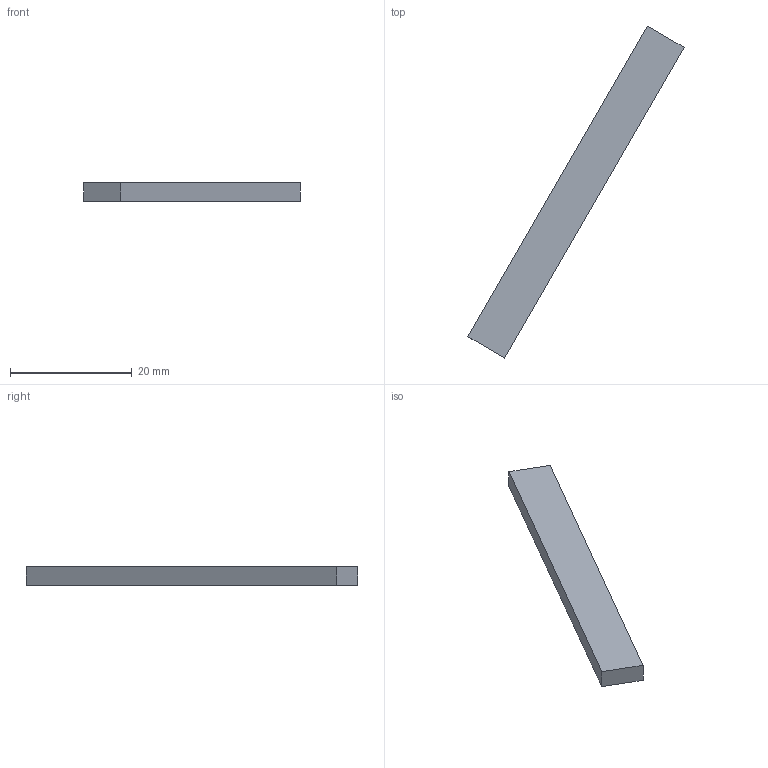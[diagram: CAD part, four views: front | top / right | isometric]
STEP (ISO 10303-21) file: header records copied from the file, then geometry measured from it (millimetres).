
FILE_DESCRIPTION(('Open CASCADE Model'),'2;1');
FILE_NAME('Open CASCADE Shape Model','2026-10-04T01:02:29',('Author'),( 'Open CASCADE'),'Open CASCADE STEP processor 8.0','Open CASCADE 8.0' ,'Unknown');
FILE_SCHEMA(('AUTOMOTIVE_DESIGN { 1 0 10303 214 1 1 1 1 }'));
Length unit declared in the file: millimetre
Products named in the file (1): Open CASCADE STEP translator 8.0 159
Bounding box: 35.46 x 54.42 x 3 mm (x, y, z)
Volume: 1234.8 mm3; surface area: 1218 mm2
Topology: 1 solids, 1 shells, 6 faces, 12 edges, 8 vertices
Faces by surface type: plane 6
Entity records: 322 total; most frequent: CARTESIAN_POINT 51, DIRECTION 50, LINE 36, VECTOR 36, ORIENTED_EDGE 24, PCURVE 24, DEFINITIONAL_REPRESENTATION 24, EDGE_CURVE 12
